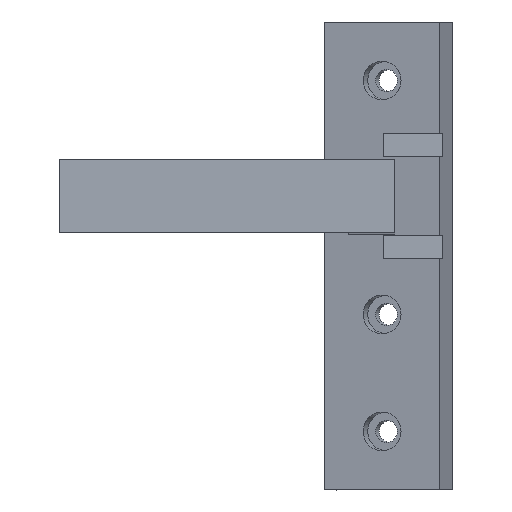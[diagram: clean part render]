
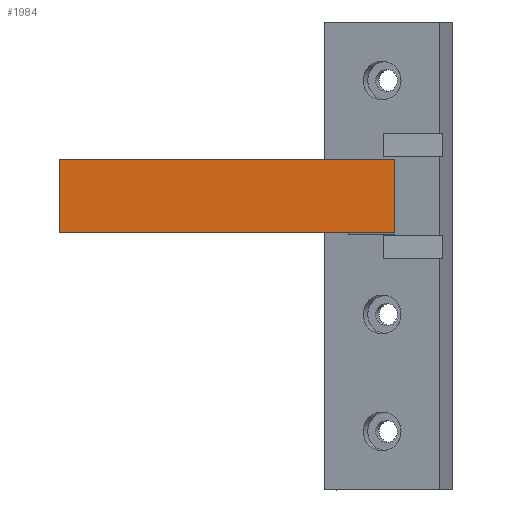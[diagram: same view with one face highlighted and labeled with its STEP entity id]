
A CAD part, top view. The second image highlights one B-rep face of the part: STEP entity #1984.
In plain terms, the highlighted planar face has unit normal (0, 0, 1).
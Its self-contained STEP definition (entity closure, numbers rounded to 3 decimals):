
#658 = PLANE('',#659);
#659 = AXIS2_PLACEMENT_3D('',#660,#661,#662);
#660 = CARTESIAN_POINT('',(0.5,26.2,-180.2));
#661 = DIRECTION('',(0.,1.,0.));
#662 = DIRECTION('',(0.,0.,1.));
#710 = PLANE('',#711);
#711 = AXIS2_PLACEMENT_3D('',#712,#713,#714);
#712 = CARTESIAN_POINT('',(0.5,42.2,-180.2));
#713 = DIRECTION('',(0.,1.,0.));
#714 = DIRECTION('',(0.,0.,1.));
#734 = PLANE('',#735);
#735 = AXIS2_PLACEMENT_3D('',#736,#737,#738);
#736 = CARTESIAN_POINT('',(10.5,26.2,-180.2));
#737 = DIRECTION('',(1.,0.,0.));
#738 = DIRECTION('',(0.,0.,1.));
#1114 = VERTEX_POINT('',#1115);
#1115 = CARTESIAN_POINT('',(10.5,26.2,21.675));
#1357 = VERTEX_POINT('',#1358);
#1358 = CARTESIAN_POINT('',(-62.364,26.2,
    21.675));
#1372 = PLANE('',#1373);
#1373 = AXIS2_PLACEMENT_3D('',#1374,#1375,#1376);
#1374 = CARTESIAN_POINT('',(-62.364,26.2,
    17.675));
#1375 = DIRECTION('',(1.,0.,0.));
#1376 = DIRECTION('',(0.,0.,1.));
#1384 = EDGE_CURVE('',#1114,#1357,#1385,.T.);
#1385 = SURFACE_CURVE('',#1386,(#1390,#1397),.PCURVE_S1.);
#1386 = LINE('',#1387,#1388);
#1387 = CARTESIAN_POINT('',(10.5,26.2,21.675));
#1388 = VECTOR('',#1389,1.);
#1389 = DIRECTION('',(-1.,0.,0.));
#1390 = PCURVE('',#658,#1391);
#1391 = DEFINITIONAL_REPRESENTATION('',(#1392),#1396);
#1392 = LINE('',#1393,#1394);
#1393 = CARTESIAN_POINT('',(201.875,10.));
#1394 = VECTOR('',#1395,1.);
#1395 = DIRECTION('',(0.,-1.));
#1396 = ( GEOMETRIC_REPRESENTATION_CONTEXT(2) 
PARAMETRIC_REPRESENTATION_CONTEXT() REPRESENTATION_CONTEXT('2D SPACE',''
  ) );
#1397 = PCURVE('',#1398,#1403);
#1398 = PLANE('',#1399);
#1399 = AXIS2_PLACEMENT_3D('',#1400,#1401,#1402);
#1400 = CARTESIAN_POINT('',(0.5,26.2,21.675));
#1401 = DIRECTION('',(0.,0.,1.));
#1402 = DIRECTION('',(1.,0.,0.));
#1403 = DEFINITIONAL_REPRESENTATION('',(#1404),#1408);
#1404 = LINE('',#1405,#1406);
#1405 = CARTESIAN_POINT('',(10.,0.));
#1406 = VECTOR('',#1407,1.);
#1407 = DIRECTION('',(-1.,0.));
#1408 = ( GEOMETRIC_REPRESENTATION_CONTEXT(2) 
PARAMETRIC_REPRESENTATION_CONTEXT() REPRESENTATION_CONTEXT('2D SPACE',''
  ) );
#1416 = VERTEX_POINT('',#1417);
#1417 = CARTESIAN_POINT('',(10.5,42.2,21.675));
#1438 = EDGE_CURVE('',#1114,#1416,#1439,.T.);
#1439 = SURFACE_CURVE('',#1440,(#1444,#1451),.PCURVE_S1.);
#1440 = LINE('',#1441,#1442);
#1441 = CARTESIAN_POINT('',(10.5,26.2,21.675));
#1442 = VECTOR('',#1443,1.);
#1443 = DIRECTION('',(0.,1.,0.));
#1444 = PCURVE('',#734,#1445);
#1445 = DEFINITIONAL_REPRESENTATION('',(#1446),#1450);
#1446 = LINE('',#1447,#1448);
#1447 = CARTESIAN_POINT('',(201.875,0.));
#1448 = VECTOR('',#1449,1.);
#1449 = DIRECTION('',(0.,-1.));
#1450 = ( GEOMETRIC_REPRESENTATION_CONTEXT(2) 
PARAMETRIC_REPRESENTATION_CONTEXT() REPRESENTATION_CONTEXT('2D SPACE',''
  ) );
#1451 = PCURVE('',#1398,#1452);
#1452 = DEFINITIONAL_REPRESENTATION('',(#1453),#1457);
#1453 = LINE('',#1454,#1455);
#1454 = CARTESIAN_POINT('',(10.,0.));
#1455 = VECTOR('',#1456,1.);
#1456 = DIRECTION('',(0.,1.));
#1457 = ( GEOMETRIC_REPRESENTATION_CONTEXT(2) 
PARAMETRIC_REPRESENTATION_CONTEXT() REPRESENTATION_CONTEXT('2D SPACE',''
  ) );
#1684 = VERTEX_POINT('',#1685);
#1685 = CARTESIAN_POINT('',(-62.364,42.2,
    21.675));
#1706 = EDGE_CURVE('',#1684,#1416,#1707,.T.);
#1707 = SURFACE_CURVE('',#1708,(#1712,#1719),.PCURVE_S1.);
#1708 = LINE('',#1709,#1710);
#1709 = CARTESIAN_POINT('',(-62.364,42.2,
    21.675));
#1710 = VECTOR('',#1711,1.);
#1711 = DIRECTION('',(1.,0.,0.));
#1712 = PCURVE('',#710,#1713);
#1713 = DEFINITIONAL_REPRESENTATION('',(#1714),#1718);
#1714 = LINE('',#1715,#1716);
#1715 = CARTESIAN_POINT('',(201.875,-62.864));
#1716 = VECTOR('',#1717,1.);
#1717 = DIRECTION('',(0.,1.));
#1718 = ( GEOMETRIC_REPRESENTATION_CONTEXT(2) 
PARAMETRIC_REPRESENTATION_CONTEXT() REPRESENTATION_CONTEXT('2D SPACE',''
  ) );
#1719 = PCURVE('',#1398,#1720);
#1720 = DEFINITIONAL_REPRESENTATION('',(#1721),#1725);
#1721 = LINE('',#1722,#1723);
#1722 = CARTESIAN_POINT('',(-62.864,16.));
#1723 = VECTOR('',#1724,1.);
#1724 = DIRECTION('',(1.,0.));
#1725 = ( GEOMETRIC_REPRESENTATION_CONTEXT(2) 
PARAMETRIC_REPRESENTATION_CONTEXT() REPRESENTATION_CONTEXT('2D SPACE',''
  ) );
#1984 = ADVANCED_FACE('',(#1985),#1398,.T.);
#1985 = FACE_BOUND('',#1986,.T.);
#1986 = EDGE_LOOP('',(#1987,#1988,#2009,#2010));
#1987 = ORIENTED_EDGE('',*,*,#1706,.F.);
#1988 = ORIENTED_EDGE('',*,*,#1989,.F.);
#1989 = EDGE_CURVE('',#1357,#1684,#1990,.T.);
#1990 = SURFACE_CURVE('',#1991,(#1995,#2002),.PCURVE_S1.);
#1991 = LINE('',#1992,#1993);
#1992 = CARTESIAN_POINT('',(-62.364,26.2,
    21.675));
#1993 = VECTOR('',#1994,1.);
#1994 = DIRECTION('',(0.,1.,0.));
#1995 = PCURVE('',#1398,#1996);
#1996 = DEFINITIONAL_REPRESENTATION('',(#1997),#2001);
#1997 = LINE('',#1998,#1999);
#1998 = CARTESIAN_POINT('',(-62.864,0.));
#1999 = VECTOR('',#2000,1.);
#2000 = DIRECTION('',(0.,1.));
#2001 = ( GEOMETRIC_REPRESENTATION_CONTEXT(2) 
PARAMETRIC_REPRESENTATION_CONTEXT() REPRESENTATION_CONTEXT('2D SPACE',''
  ) );
#2002 = PCURVE('',#1372,#2003);
#2003 = DEFINITIONAL_REPRESENTATION('',(#2004),#2008);
#2004 = LINE('',#2005,#2006);
#2005 = CARTESIAN_POINT('',(4.,0.));
#2006 = VECTOR('',#2007,1.);
#2007 = DIRECTION('',(0.,-1.));
#2008 = ( GEOMETRIC_REPRESENTATION_CONTEXT(2) 
PARAMETRIC_REPRESENTATION_CONTEXT() REPRESENTATION_CONTEXT('2D SPACE',''
  ) );
#2009 = ORIENTED_EDGE('',*,*,#1384,.F.);
#2010 = ORIENTED_EDGE('',*,*,#1438,.T.);
